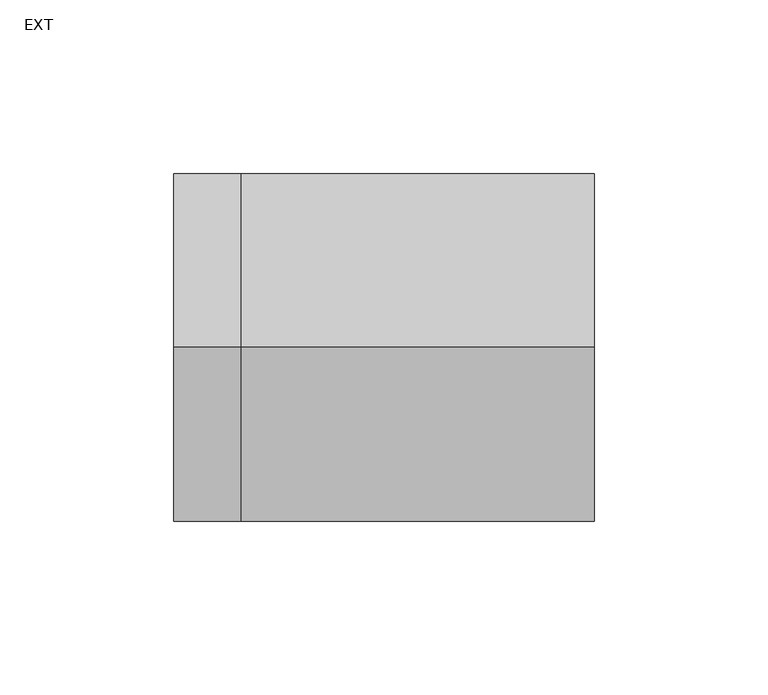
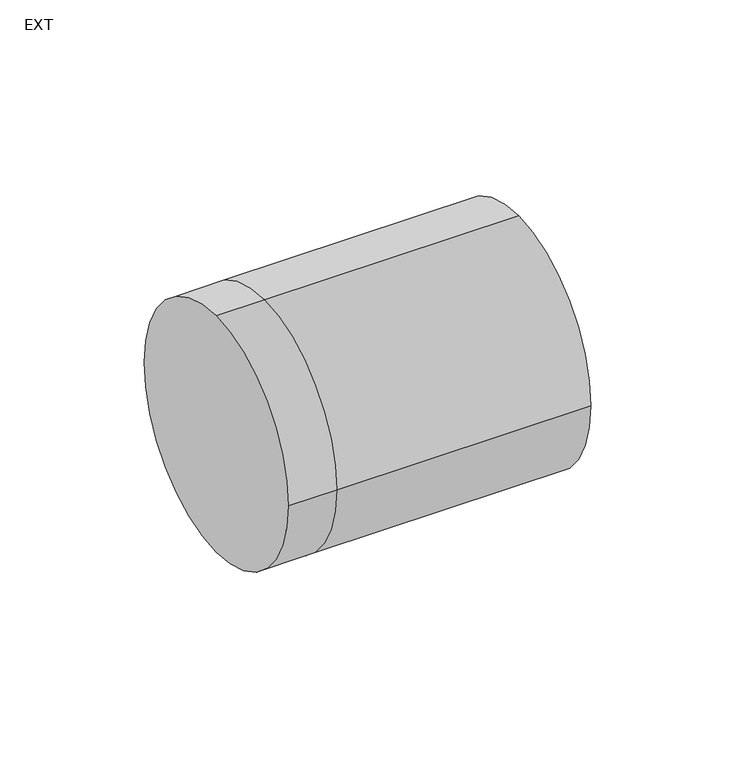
"""IFC4 building model written with IfcOpenShell, lengths in millimetres: duct fitting geometry, M_Toma de derivación redonda : EXT."""

from ifc_helpers import new_model, si_unit, frame, origin, place, context, project, spatial, circle_curve, source, transform, mapped, element, save
from ifc_brep_helpers import plane_surface, cylinder_surface, advanced_brep


def ext_562ff85e(model_context):
    return source(origin(), model_context, "Body", "AdvancedBrep", [
        advanced_brep(
        [(101.6, 0.0, 50.0), (101.6, -50.0, 0.0), (101.6, 0.0, -50.0), (101.6, 50.0, 0.0), (0.0, 0.0, 50.0), (0.0, -50.0, 0.0), (0.0, 0.0, -50.0), (0.0, 50.0, 0.0), (-19.4945399, 0.0, 50.0), (-19.4945399, 50.0, 0.0), (-19.4945399, 0.0, -50.0), (-19.4945399, -50.0, 0.0)],
        [
            (0, 1, circle_curve(frame((101.6, 0.0, 0.0), z_axis=(1.0, 0.0, 0.0), x_axis=(0.0, -1.0, 0.0)), 50.0)),
            (1, 2, circle_curve(frame((101.6, 0.0, 0.0), z_axis=(1.0, 0.0, 0.0), x_axis=(0.0, -1.0, 0.0)), 50.0)),
            (2, 3, circle_curve(frame((101.6, 0.0, 0.0), z_axis=(1.0, 0.0, 0.0), x_axis=(0.0, -1.0, 0.0)), 50.0)),
            (3, 0, circle_curve(frame((101.6, 0.0, 0.0), z_axis=(1.0, 0.0, 0.0), x_axis=(0.0, -1.0, 0.0)), 50.0)),
            (0, 4),
            (4, 5, circle_curve(frame((0.0, 0.0, 0.0), z_axis=(1.0, 0.0, 0.0), x_axis=(0.0, -1.0, 0.0)), 50.0)),
            (5, 1),
            (5, 6, circle_curve(frame((0.0, 0.0, 0.0), z_axis=(1.0, 0.0, 0.0), x_axis=(0.0, -1.0, 0.0)), 50.0)),
            (6, 2),
            (6, 7, circle_curve(frame((0.0, 0.0, 0.0), z_axis=(1.0, 0.0, 0.0), x_axis=(0.0, -1.0, 0.0)), 50.0)),
            (7, 3),
            (7, 4, circle_curve(frame((0.0, 0.0, 0.0), z_axis=(1.0, 0.0, 0.0), x_axis=(0.0, -1.0, 0.0)), 50.0)),
            (8, 9, circle_curve(frame((-19.4945399, 0.0, 0.0), z_axis=(-1.0, 0.0, 0.0), x_axis=(0.0, -1.0, 0.0)), 50.0)),
            (9, 10, circle_curve(frame((-19.4945399, 0.0, 0.0), z_axis=(-1.0, 0.0, 0.0), x_axis=(0.0, -1.0, 0.0)), 50.0)),
            (10, 11, circle_curve(frame((-19.4945399, 0.0, 0.0), z_axis=(-1.0, 0.0, 0.0), x_axis=(0.0, -1.0, 0.0)), 50.0)),
            (11, 8, circle_curve(frame((-19.4945399, 0.0, 0.0), z_axis=(-1.0, 0.0, 0.0), x_axis=(0.0, -1.0, 0.0)), 50.0)),
            (11, 5),
            (4, 8),
            (10, 6),
            (9, 7),
        ],
        [
            plane_surface(frame((101.6, 0.0, 0.0), z_axis=(1.0, 0.0, 0.0), x_axis=(0.0, 0.0, 1.0))),
            cylinder_surface(frame((0.0, 0.0, 0.0), z_axis=(-1.0, 0.0, 0.0), x_axis=(0.0, -1.0, 0.0)), 50.0),
            plane_surface(frame((-19.4945399, 0.0, 0.0), z_axis=(-1.0, 0.0, 0.0), x_axis=(0.0, 0.0, 1.0))),
            cylinder_surface(frame((-19.4945399, 0.0, 0.0), z_axis=(-1.0, 0.0, 0.0), x_axis=(0.0, -1.0, 0.0)), 50.0),
        ],
        [
            (0, [[1, 2, 3, 4]]),
            (1, [[5, 6, 7, -1]]),
            (1, [[-7, 8, 9, -2]]),
            (1, [[-9, 10, 11, -3]]),
            (1, [[-11, 12, -5, -4]]),
            (2, [[13, 14, 15, 16]]),
            (3, [[17, -6, 18, -16]]),
            (3, [[19, -8, -17, -15]]),
            (3, [[20, -10, -19, -14]]),
            (3, [[-18, -12, -20, -13]]),
        ],
    ),
    ])


if __name__ == "__main__":
    model = new_model("IFC4")
    model_context = context("Model", 3, world=origin())
    ifc_project = project(units=[si_unit("LENGTHUNIT", "METRE", prefix="MILLI")], contexts=[model_context])
    site = spatial("IfcSite", under=ifc_project)
    building = spatial("IfcBuilding", under=site)
    placement = place(None, origin())
    ext_shape = ext_562ff85e(model_context)
    element("IfcDuctFitting", 1, ObjectType="M_Toma de derivación redonda : EXT", at=placement, inside=building, context=model_context, shape_type="MappedRepresentation", body=[
        mapped(ext_shape, transform((0.0, 0.0, 0.0), x_axis=(1.0, 0.0, 0.0), y_axis=(0.0, 1.0, 0.0), z_axis=(0.0, 0.0, 1.0))),
    ])
    save(model, "model.ifc")
